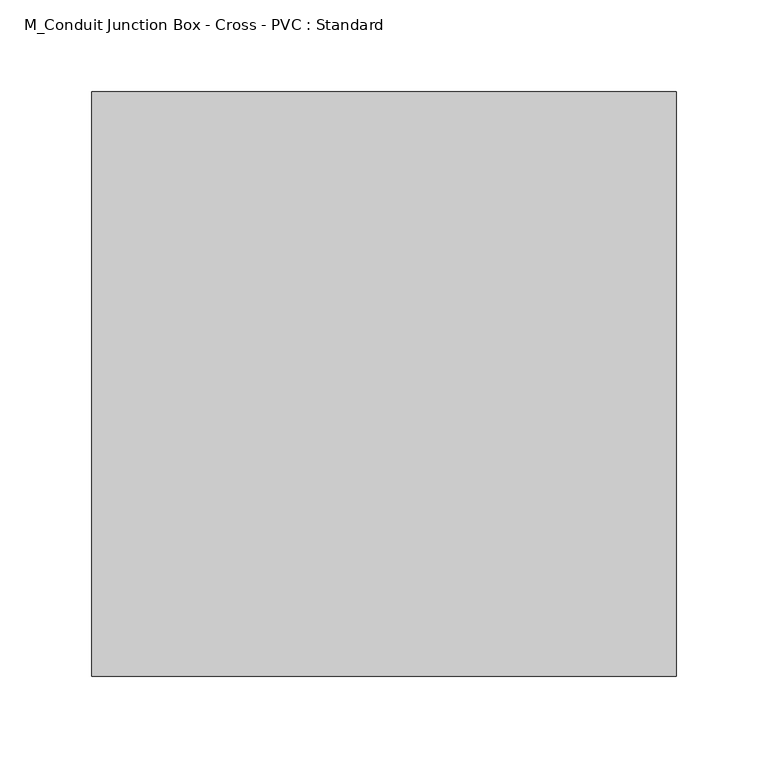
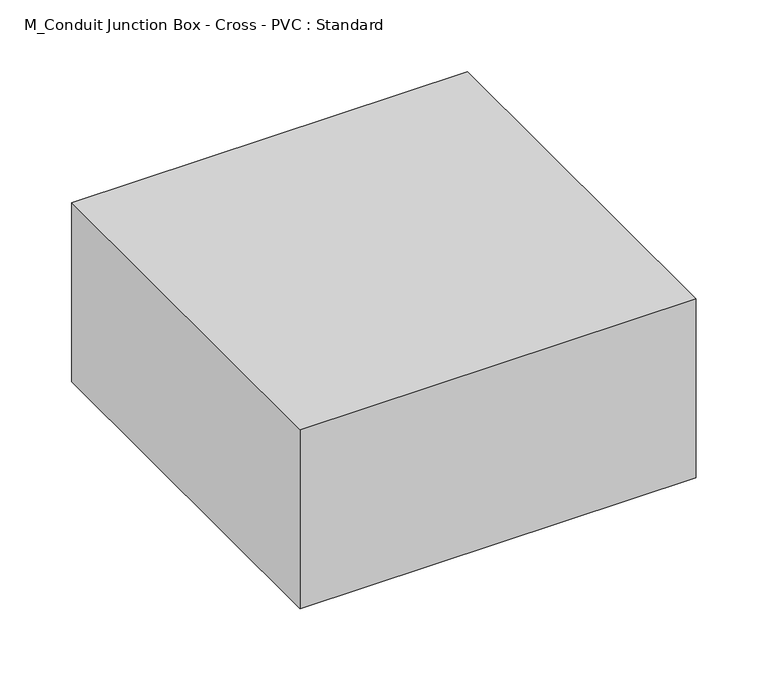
"""IFC4 building model written with IfcOpenShell, lengths in millimetres: cable carrier fitting geometry, M_Conduit Junction Box - Cross - PVC : Standard."""

from ifc_helpers import new_model, si_unit, frame, origin, place, context, project, spatial, polyline, outline, extrude, source, transform, mapped, element, save


def m_conduit_junction_box_cross_pvc_standard_3c8550d1(model_context):
    return source(origin(), model_context, "Body", "SweptSolid", [
        extrude(outline(polyline([(159.0, 159.0), (159.0, -159.0), (-159.0, -159.0), (-159.0, 159.0), (159.0, 159.0)])), frame((0.0, 0.0, -76.0), z_axis=(0.0, 0.0, 1.0), x_axis=(1.0, 0.0, 0.0)), (0.0, 0.0, 1.0), 152.0),
    ])


if __name__ == "__main__":
    model = new_model("IFC4")
    model_context = context("Model", 3, world=origin())
    ifc_project = project(units=[si_unit("LENGTHUNIT", "METRE", prefix="MILLI")], contexts=[model_context])
    site = spatial("IfcSite", under=ifc_project)
    building = spatial("IfcBuilding", under=site)
    placement = place(None, origin())
    m_conduit_junction_box_cross_pvc_standard_shape = m_conduit_junction_box_cross_pvc_standard_3c8550d1(model_context)
    element("IfcCableCarrierFitting", 1, ObjectType="M_Conduit Junction Box - Cross - PVC : Standard", at=placement, inside=building, context=model_context, shape_type="MappedRepresentation", body=[
        mapped(m_conduit_junction_box_cross_pvc_standard_shape, transform((0.0, 0.0, 0.0), x_axis=(1.0, 0.0, 0.0), y_axis=(0.0, 1.0, 0.0), z_axis=(0.0, 0.0, 1.0))),
    ])
    save(model, "model.ifc")
